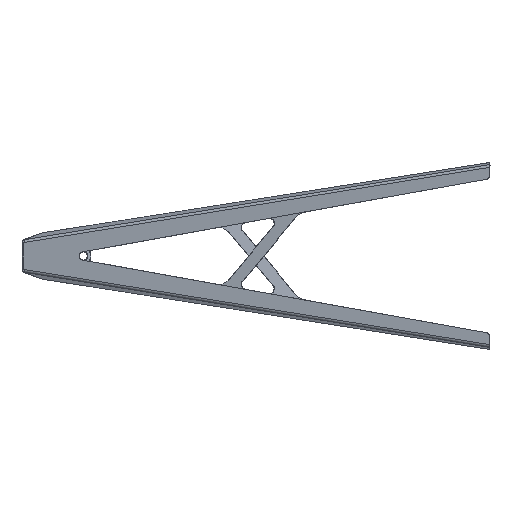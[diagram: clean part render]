
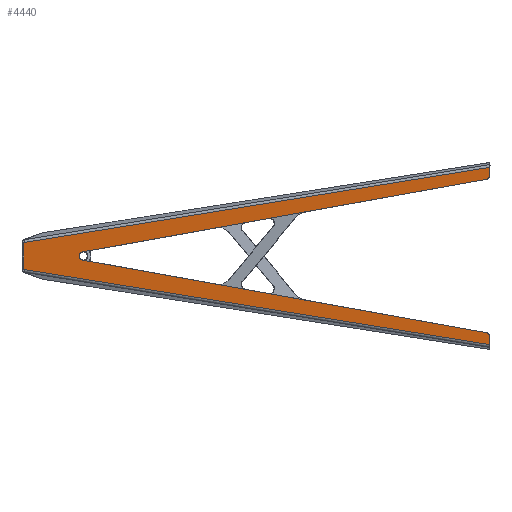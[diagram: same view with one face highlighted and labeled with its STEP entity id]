
A CAD part, left-side view. The second image highlights one B-rep face of the part: STEP entity #4440.
In plain terms, the highlighted planar face has unit normal (-0.982, 0.191, 0).
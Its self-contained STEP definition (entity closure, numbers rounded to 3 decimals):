
#3 = CARTESIAN_POINT ( 'NONE',  ( -97.713, -34.978, 2.462 ) ) ;
#20 = DIRECTION ( 'NONE',  ( -0.188, -0.97, -0.156 ) ) ;
#38 = VERTEX_POINT ( 'NONE', #3987 ) ;
#63 = CIRCLE ( 'NONE', #1357, 0.75 ) ;
#124 = DIRECTION ( 'NONE',  ( 0.982, -0.191, 0. ) ) ;
#192 = CARTESIAN_POINT ( 'NONE',  ( -144.639, -276.394, 47.858 ) ) ;
#208 = VERTEX_POINT ( 'NONE', #3470 ) ;
#234 = CARTESIAN_POINT ( 'NONE',  ( -90.931, -0.09, 8.114 ) ) ;
#270 = CARTESIAN_POINT ( 'NONE',  ( -97.713, -34.978, -2.462 ) ) ;
#271 = LINE ( 'NONE', #1790, #3481 ) ;
#273 = DIRECTION ( 'NONE',  ( 0., 0., 1. ) ) ;
#301 = VECTOR ( 'NONE', #1060, 1000. ) ;
#335 = ORIENTED_EDGE ( 'NONE', *, *, #1202, .F. ) ;
#368 = CARTESIAN_POINT ( 'NONE',  ( -97.796, -35.404, 0. ) ) ;
#406 = CARTESIAN_POINT ( 'NONE',  ( -90.901, 0.067, -7.995 ) ) ;
#462 = ORIENTED_EDGE ( 'NONE', *, *, #2817, .F. ) ;
#476 = CARTESIAN_POINT ( 'NONE',  ( -90.831, 0.425, 8.65 ) ) ;
#605 = CARTESIAN_POINT ( 'NONE',  ( -144.705, -276.735, 45.888 ) ) ;
#606 = AXIS2_PLACEMENT_3D ( 'NONE', #1689, #1406, #982 ) ;
#631 = AXIS2_PLACEMENT_3D ( 'NONE', #368, #747, #661 ) ;
#648 = CARTESIAN_POINT ( 'NONE',  ( -145.021, -278.357, 53.613 ) ) ;
#661 = DIRECTION ( 'NONE',  ( 0., 0., -1. ) ) ;
#670 = LINE ( 'NONE', #4204, #4233 ) ;
#747 = DIRECTION ( 'NONE',  ( -0.982, 0.191, 0. ) ) ;
#775 = ORIENTED_EDGE ( 'NONE', *, *, #3482, .F. ) ;
#787 = DIRECTION ( 'NONE',  ( -0.982, 0.191, 0. ) ) ;
#851 = VERTEX_POINT ( 'NONE', #1463 ) ;
#877 = VECTOR ( 'NONE', #20, 1000. ) ;
#884 = VERTEX_POINT ( 'NONE', #1224 ) ;
#933 = ORIENTED_EDGE ( 'NONE', *, *, #4117, .T. ) ;
#982 = DIRECTION ( 'NONE',  ( 0., 0., -1. ) ) ;
#1015 = LINE ( 'NONE', #648, #301 ) ;
#1021 = EDGE_LOOP ( 'NONE', ( #2505, #933, #2783, #1469, #1890, #3953, #3045, #1098, #462, #775, #3385, #335 ) ) ;
#1033 = AXIS2_PLACEMENT_3D ( 'NONE', #1375, #3233, #2101 ) ;
#1038 = CARTESIAN_POINT ( 'NONE',  ( -144.639, -276.394, -47.858 ) ) ;
#1060 = DIRECTION ( 'NONE',  ( 0., 0., -1. ) ) ;
#1064 = VERTEX_POINT ( 'NONE', #3820 ) ;
#1098 = ORIENTED_EDGE ( 'NONE', *, *, #1793, .F. ) ;
#1202 = EDGE_CURVE ( 'NONE', #3599, #1451, #271, .T. ) ;
#1224 = CARTESIAN_POINT ( 'NONE',  ( -97.713, -34.978, -2.462 ) ) ;
#1271 = EDGE_CURVE ( 'NONE', #3028, #38, #1552, .T. ) ;
#1345 = EDGE_CURVE ( 'NONE', #851, #3599, #63, .T. ) ;
#1357 = AXIS2_PLACEMENT_3D ( 'NONE', #476, #787, #2550 ) ;
#1375 = CARTESIAN_POINT ( 'NONE',  ( -49.521, 212.947, 0. ) ) ;
#1406 = DIRECTION ( 'NONE',  ( -0.982, 0.191, 0. ) ) ;
#1430 = VECTOR ( 'NONE', #2903, 1000. ) ;
#1451 = VERTEX_POINT ( 'NONE', #2896 ) ;
#1463 = CARTESIAN_POINT ( 'NONE',  ( -90.901, 0.067, 7.995 ) ) ;
#1469 = ORIENTED_EDGE ( 'NONE', *, *, #4146, .T. ) ;
#1552 = LINE ( 'NONE', #2180, #1430 ) ;
#1689 = CARTESIAN_POINT ( 'NONE',  ( -90.831, 0.425, -8.65 ) ) ;
#1744 = CIRCLE ( 'NONE', #2327, 2. ) ;
#1778 = CIRCLE ( 'NONE', #631, 2.5 ) ;
#1790 = CARTESIAN_POINT ( 'NONE',  ( -50.295, 208.965, -25.617 ) ) ;
#1793 = EDGE_CURVE ( 'NONE', #3007, #884, #1778, .T. ) ;
#1823 = CARTESIAN_POINT ( 'NONE',  ( -90.901, 0.067, 0. ) ) ;
#1849 = DIRECTION ( 'NONE',  ( 0., 0., -1. ) ) ;
#1890 = ORIENTED_EDGE ( 'NONE', *, *, #1271, .F. ) ;
#2101 = DIRECTION ( 'NONE',  ( 0., 0., 1. ) ) ;
#2132 = VECTOR ( 'NONE', #3087, 1000. ) ;
#2173 = LINE ( 'NONE', #1823, #4177 ) ;
#2180 = CARTESIAN_POINT ( 'NONE',  ( -145.021, -278.357, -53.613 ) ) ;
#2280 = EDGE_CURVE ( 'NONE', #208, #3316, #3766, .T. ) ;
#2327 = AXIS2_PLACEMENT_3D ( 'NONE', #1038, #2487, #273 ) ;
#2379 = CARTESIAN_POINT ( 'NONE',  ( -144.705, -276.735, -45.888 ) ) ;
#2421 = FACE_OUTER_BOUND ( 'NONE', #1021, .T. ) ;
#2462 = DIRECTION ( 'NONE',  ( -0.188, -0.97, 0.156 ) ) ;
#2487 = DIRECTION ( 'NONE',  ( 0.982, -0.191, 0. ) ) ;
#2505 = ORIENTED_EDGE ( 'NONE', *, *, #1345, .F. ) ;
#2550 = DIRECTION ( 'NONE',  ( 0., 0., 1. ) ) ;
#2780 = CIRCLE ( 'NONE', #3981, 2. ) ;
#2783 = ORIENTED_EDGE ( 'NONE', *, *, #2280, .F. ) ;
#2817 = EDGE_CURVE ( 'NONE', #3055, #3007, #670, .T. ) ;
#2842 = EDGE_CURVE ( 'NONE', #884, #3562, #3845, .T. ) ;
#2896 = CARTESIAN_POINT ( 'NONE',  ( -145.021, -278.357, 53.012 ) ) ;
#2903 = DIRECTION ( 'NONE',  ( 0., 0., -1. ) ) ;
#2997 = DIRECTION ( 'NONE',  ( 0., 0., -1. ) ) ;
#3007 = VERTEX_POINT ( 'NONE', #3 ) ;
#3028 = VERTEX_POINT ( 'NONE', #4340 ) ;
#3045 = ORIENTED_EDGE ( 'NONE', *, *, #2842, .F. ) ;
#3055 = VERTEX_POINT ( 'NONE', #605 ) ;
#3087 = DIRECTION ( 'NONE',  ( -0.188, -0.967, -0.174 ) ) ;
#3159 = EDGE_CURVE ( 'NONE', #3562, #3028, #1744, .T. ) ;
#3233 = DIRECTION ( 'NONE',  ( 0.982, -0.191, 0. ) ) ;
#3240 = EDGE_CURVE ( 'NONE', #1451, #1064, #1015, .T. ) ;
#3316 = VERTEX_POINT ( 'NONE', #406 ) ;
#3385 = ORIENTED_EDGE ( 'NONE', *, *, #3240, .F. ) ;
#3470 = CARTESIAN_POINT ( 'NONE',  ( -90.931, -0.09, -8.114 ) ) ;
#3481 = VECTOR ( 'NONE', #2462, 1000. ) ;
#3482 = EDGE_CURVE ( 'NONE', #1064, #3055, #2780, .T. ) ;
#3518 = DIRECTION ( 'NONE',  ( 0.188, 0.967, -0.174 ) ) ;
#3557 = LINE ( 'NONE', #4358, #877 ) ;
#3562 = VERTEX_POINT ( 'NONE', #2379 ) ;
#3599 = VERTEX_POINT ( 'NONE', #234 ) ;
#3766 = CIRCLE ( 'NONE', #606, 0.75 ) ;
#3782 = PLANE ( 'NONE',  #1033 ) ;
#3820 = CARTESIAN_POINT ( 'NONE',  ( -145.021, -278.357, 47.858 ) ) ;
#3845 = LINE ( 'NONE', #270, #2132 ) ;
#3953 = ORIENTED_EDGE ( 'NONE', *, *, #3159, .F. ) ;
#3981 = AXIS2_PLACEMENT_3D ( 'NONE', #192, #124, #2997 ) ;
#3987 = CARTESIAN_POINT ( 'NONE',  ( -145.021, -278.357, -53.012 ) ) ;
#4117 = EDGE_CURVE ( 'NONE', #851, #3316, #2173, .T. ) ;
#4146 = EDGE_CURVE ( 'NONE', #208, #38, #3557, .T. ) ;
#4177 = VECTOR ( 'NONE', #1849, 1000. ) ;
#4204 = CARTESIAN_POINT ( 'NONE',  ( -97.713, -34.978, 2.462 ) ) ;
#4233 = VECTOR ( 'NONE', #3518, 1000. ) ;
#4340 = CARTESIAN_POINT ( 'NONE',  ( -145.021, -278.357, -47.858 ) ) ;
#4358 = CARTESIAN_POINT ( 'NONE',  ( -50.295, 208.965, 25.617 ) ) ;
#4440 = ADVANCED_FACE ( 'NONE', ( #2421 ), #3782, .F. ) ;
